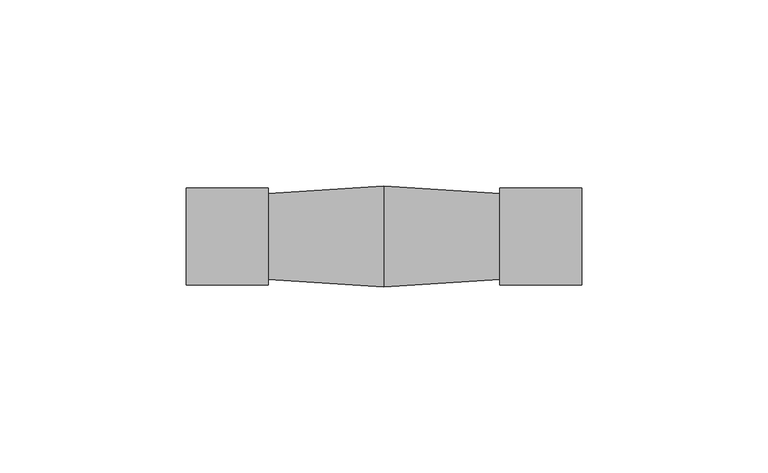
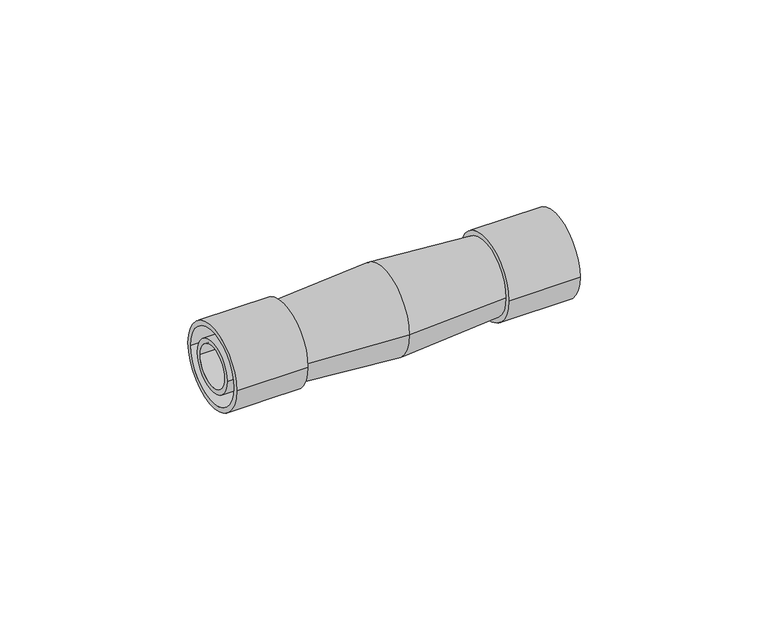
"""IFC4 building model written with IfcOpenShell, lengths in millimetres: cable carrier fitting geometry, КНС_МуфтаДляАрмированныхТруб_IP65_DKC : Коробка."""

from ifc_helpers import new_model, si_unit, point, frame, origin, origin_2d, place, context, project, spatial, polyline, circle_curve, trimmed, segment, composite_curve, outline, extrude, source, transform, mapped, element, save
from ifc_brep_helpers import plane_surface, revolved_surface, advanced_brep


def cable_carrier_fitting_17c59ff6(model_context):
    return source(origin(), model_context, "Body", "SolidModel", [
        advanced_brep(
        [(-31.0, -11.5, 0.0), (-31.0, 11.5, 0.0), (0.0, 13.5, 0.0), (0.0, -13.5, 0.0), (-31.0, 0.0, 0.0), (31.0, -11.5, 0.0), (31.0, 11.5, 0.0), (31.0, 0.0, 0.0)],
        [
            (0, 1, circle_curve(frame((-31.0, 0.0, 0.0), z_axis=(1.0, 0.0, 0.0), x_axis=(0.0, 1.0, 0.0)), 11.5)),
            (1, 2),
            (2, 3, circle_curve(frame((0.0, 0.0, 0.0), z_axis=(-1.0, 0.0, 0.0), x_axis=(0.0, 1.0, 0.0)), 13.5)),
            (3, 0),
            (1, 0, circle_curve(frame((-31.0, 0.0, 0.0), z_axis=(1.0, 0.0, 0.0), x_axis=(0.0, 1.0, 0.0)), 11.5)),
            (3, 2, circle_curve(frame((0.0, 0.0, 0.0), z_axis=(-1.0, 0.0, 0.0), x_axis=(0.0, 1.0, 0.0)), 13.5)),
            (4, 1),
            (0, 4),
            (5, 6, circle_curve(frame((31.0, 0.0, 0.0), z_axis=(1.0, 0.0, 0.0), x_axis=(0.0, 1.0, 0.0)), 11.5)),
            (6, 7),
            (7, 5),
            (6, 5, circle_curve(frame((31.0, 0.0, 0.0), z_axis=(1.0, 0.0, 0.0), x_axis=(0.0, 1.0, 0.0)), 11.5)),
            (2, 6),
            (5, 3),
        ],
        [
            revolved_surface(polyline([(0.0, 13.5, 0.0), (-31.0, 11.5, 0.0)]), (1504.0, 0.0, 0.0), (-1.0, 0.0, 0.0)),
            plane_surface(frame((-31.0, 0.0, 0.0), z_axis=(-1.0, 0.0, 0.0), x_axis=(0.0, 1.0, 0.0))),
            plane_surface(frame((31.0, 0.0, 0.0), z_axis=(1.0, 0.0, 0.0), x_axis=(0.0, 1.0, 0.0))),
            revolved_surface(polyline([(31.0, 11.5, 0.0), (0.0, 13.5, 0.0)]), (1504.0, 0.0, 0.0), (-1.0, 0.0, 0.0)),
        ],
        [
            (0, [[1, 2, 3, 4]]),
            (0, [[5, -4, 6, -2]]),
            (1, [[7, -1, 8]]),
            (1, [[-8, -5, -7]]),
            (2, [[9, 10, 11]]),
            (2, [[12, -11, -10]]),
            (3, [[-3, 13, -9, 14]]),
            (3, [[-6, -14, -12, -13]]),
        ],
    ),
        extrude(outline(composite_curve([segment(trimmed(circle_curve(origin_2d(), 8.0), [point((-8.0, 0.0))], [point((8.0, 0.0))], False, "CARTESIAN"), True, "CONTINUOUS"), segment(trimmed(circle_curve(origin_2d(), 8.0), [point((8.0, 0.0))], [point((-8.0, 0.0))], False, "CARTESIAN"), True, "CONTINUOUS")], self_intersect=False), holes=[composite_curve([segment(trimmed(circle_curve(origin_2d(), 6.5), [point((-6.5, 0.0))], [point((6.5, 0.0))], True, "CARTESIAN"), True, "CONTINUOUS"), segment(trimmed(circle_curve(origin_2d(), 6.5), [point((6.5, 0.0))], [point((-6.5, 0.0))], True, "CARTESIAN"), True, "CONTINUOUS")], self_intersect=False)]), frame((-53.0, 0.0, 0.0), z_axis=(1.0, 0.0, 0.0), x_axis=(0.0, 1.0, 0.0)), (0.0, 0.0, 1.0), 22.0),
        extrude(outline(composite_curve([segment(trimmed(circle_curve(origin_2d(), 13.0), [point((-13.0, 0.0))], [point((13.0, 0.0))], False, "CARTESIAN"), True, "CONTINUOUS"), segment(trimmed(circle_curve(origin_2d(), 13.0), [point((13.0, 0.0))], [point((-13.0, 0.0))], False, "CARTESIAN"), True, "CONTINUOUS")], self_intersect=False), holes=[composite_curve([segment(trimmed(circle_curve(origin_2d(), 11.5), [point((-11.5, 0.0))], [point((11.5, 0.0))], True, "CARTESIAN"), True, "CONTINUOUS"), segment(trimmed(circle_curve(origin_2d(), 11.5), [point((11.5, 0.0))], [point((-11.5, 0.0))], True, "CARTESIAN"), True, "CONTINUOUS")], self_intersect=False)]), frame((-53.0, 0.0, 0.0), z_axis=(1.0, 0.0, 0.0), x_axis=(0.0, 1.0, 0.0)), (0.0, 0.0, 1.0), 22.0),
        extrude(outline(composite_curve([segment(trimmed(circle_curve(origin_2d(), 13.0), [point((-13.0, 0.0))], [point((13.0, 0.0))], False, "CARTESIAN"), True, "CONTINUOUS"), segment(trimmed(circle_curve(origin_2d(), 13.0), [point((13.0, 0.0))], [point((-13.0, 0.0))], False, "CARTESIAN"), True, "CONTINUOUS")], self_intersect=False), holes=[composite_curve([segment(trimmed(circle_curve(origin_2d(), 11.5), [point((-11.5, 0.0))], [point((11.5, 0.0))], True, "CARTESIAN"), True, "CONTINUOUS"), segment(trimmed(circle_curve(origin_2d(), 11.5), [point((11.5, 0.0))], [point((-11.5, 0.0))], True, "CARTESIAN"), True, "CONTINUOUS")], self_intersect=False)]), frame((31.0, 0.0, 0.0), z_axis=(1.0, 0.0, 0.0), x_axis=(0.0, 1.0, 0.0)), (0.0, 0.0, 1.0), 22.0),
        extrude(outline(composite_curve([segment(trimmed(circle_curve(origin_2d(), 8.0), [point((-8.0, 0.0))], [point((8.0, 0.0))], False, "CARTESIAN"), True, "CONTINUOUS"), segment(trimmed(circle_curve(origin_2d(), 8.0), [point((8.0, 0.0))], [point((-8.0, 0.0))], False, "CARTESIAN"), True, "CONTINUOUS")], self_intersect=False), holes=[composite_curve([segment(trimmed(circle_curve(origin_2d(), 6.5), [point((-6.5, 0.0))], [point((6.5, 0.0))], True, "CARTESIAN"), True, "CONTINUOUS"), segment(trimmed(circle_curve(origin_2d(), 6.5), [point((6.5, 0.0))], [point((-6.5, 0.0))], True, "CARTESIAN"), True, "CONTINUOUS")], self_intersect=False)]), frame((31.0, 0.0, 0.0), z_axis=(1.0, 0.0, 0.0), x_axis=(0.0, 1.0, 0.0)), (0.0, 0.0, 1.0), 22.0),
    ])


if __name__ == "__main__":
    model = new_model("IFC4")
    model_context = context("Model", 3, world=origin())
    ifc_project = project(units=[si_unit("LENGTHUNIT", "METRE", prefix="MILLI")], contexts=[model_context])
    site = spatial("IfcSite", under=ifc_project)
    building = spatial("IfcBuilding", under=site)
    placement = place(None, origin())
    cable_carrier_fitting_shape = cable_carrier_fitting_17c59ff6(model_context)
    element("IfcCableCarrierFitting", 1, ObjectType="КНС_МуфтаДляАрмированныхТруб_IP65_DKC : Коробка", at=placement, inside=building, context=model_context, shape_type="MappedRepresentation", body=[
        mapped(cable_carrier_fitting_shape, transform((0.0, 0.0, 0.0), x_axis=(1.0, 0.0, 0.0), y_axis=(0.0, 1.0, 0.0), z_axis=(0.0, 0.0, 1.0))),
    ])
    save(model, "model.ifc")
